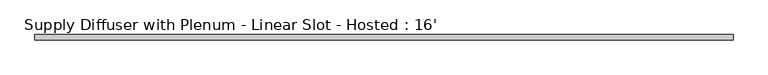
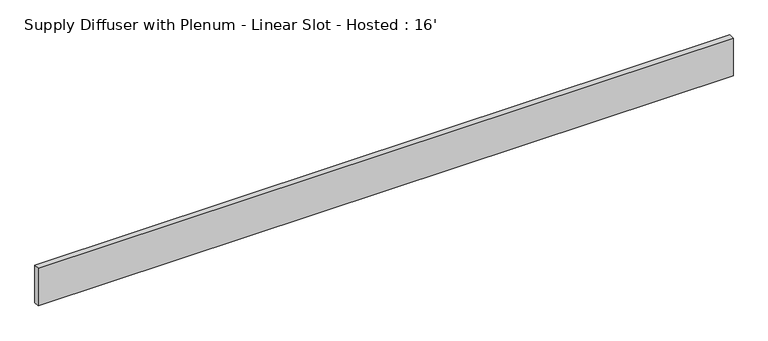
"""IFC4 building model written with IfcOpenShell, lengths in millimetres: air terminal geometry, Supply Diffuser with Plenum - Linear Slot - Hosted : 16'."""

import ifcopenshell
import ifcopenshell.guid

model = None  # the IFC model being written
_history = None  # IfcOwnerHistory: only IFC2X3 demands one
_inside = {}  # id of a spatial element -> (the spatial element, [elements in it])
_under = {}  # id of a project, library or spatial element -> (it, [spatial elements below it])
_declared = {}  # id of a project -> (the project, [libraries it declares])
_typed = {}  # id of a type object -> (the type object, [elements of that type])
_made_of = {}  # id of a material, layer set ... -> (it, [elements and type objects made of it])


def new_model(schema):
    """Start an empty IFC model of exactly this schema.

    Asked for "IFC4X3", IfcOpenShell would pick the latest addendum, in which some entities
    have other attributes; the version numbers below select the first issue.
    IFC2X3 requires an IfcOwnerHistory on every rooted entity: one is made here for all.
    """
    global model, _history
    if schema == "IFC4X3":
        model = ifcopenshell.file(schema_version=(4, 3, 0, 0))
    else:
        model = ifcopenshell.file(schema=schema)
    _inside.clear()
    _under.clear()
    _declared.clear()
    _typed.clear()
    _made_of.clear()
    _history = None
    if model.schema == "IFC2X3":
        org = make("IfcOrganization", Name="unknown")
        user = make(
            "IfcPersonAndOrganization",
            ThePerson=make("IfcPerson", FamilyName="unknown"),
            TheOrganization=org,
        )
        app = make(
            "IfcApplication",
            ApplicationDeveloper=org,
            Version="unknown",
            ApplicationFullName="unknown",
            ApplicationIdentifier="unknown",
        )
        _history = make(
            "IfcOwnerHistory",
            OwningUser=user,
            OwningApplication=app,
            ChangeAction="ADDED",
            CreationDate=0,
        )
    return model


def make(cls, **values):
    """One entity of the class cls with the attributes given. An attribute that is None is left unset."""
    return model.create_entity(
        cls, **{name: value for name, value in values.items() if value is not None}
    )


def rooted(cls, **values):
    """An entity with a GlobalId (a new one), such as an element, a storey or a relation."""
    return make(cls, GlobalId=ifcopenshell.guid.new(), OwnerHistory=_history, **values)


def si_unit(unit_type, name, prefix=None):
    """IfcSIUnit, for example si_unit("LENGTHUNIT", "METRE", prefix="MILLI")."""
    return make("IfcSIUnit", UnitType=unit_type, Prefix=prefix, Name=name)


def assignment(units):
    """IfcUnitAssignment: the units of a project."""
    return None if units is None else make("IfcUnitAssignment", Units=units)


def point(xyz):
    """IfcCartesianPoint."""
    return None if xyz is None else make("IfcCartesianPoint", Coordinates=xyz)


def direction(xyz):
    """IfcDirection."""
    return None if xyz is None else make("IfcDirection", DirectionRatios=xyz)


def frame(location, z_axis=None, x_axis=None):
    """IfcAxis2Placement3D, a coordinate frame: its origin and axes. An axis left out is left unset."""
    return make(
        "IfcAxis2Placement3D",
        Location=point(location),
        Axis=direction(z_axis),
        RefDirection=direction(x_axis),
    )


def origin():
    """The frame at (0, 0, 0) with its axes left unset."""
    return frame((0.0, 0.0, 0.0))


def place(relative_to, where):
    """IfcLocalPlacement: puts the frame where relative to a parent placement (None: the world)."""
    return make(
        "IfcLocalPlacement", PlacementRelTo=relative_to, RelativePlacement=where
    )


def context(
    kind, dimensions, precision=None, world=None, true_north=None, identifier=None
):
    """IfcGeometricRepresentationContext, for example the 3D "Model" context."""
    return make(
        "IfcGeometricRepresentationContext",
        ContextIdentifier=identifier,
        ContextType=kind,
        CoordinateSpaceDimension=dimensions,
        Precision=precision,
        WorldCoordinateSystem=world,
        TrueNorth=true_north,
    )


def project(units=None, contexts=None):
    """IfcProject with its units and contexts."""
    return rooted(
        "IfcProject",
        Name="project",
        RepresentationContexts=contexts,
        UnitsInContext=assignment(units),
    )


def spatial(cls, under=None, at=None, **own):
    """A site, building, storey or space (cls), placed at a placement, below another one or the project."""
    s = rooted(cls, ObjectPlacement=at, **own)
    if under is not None:
        _under.setdefault(under.id(), (under, []))[1].append(s)
    return s


def polyline(points):
    """IfcPolyline through the points."""
    return make("IfcPolyline", Points=[point(p) for p in points])


def outline(outer, holes=None, kind="AREA"):
    """IfcArbitraryClosedProfileDef: a profile drawn as a closed curve; with holes, ...WithVoids."""
    if holes is None:
        return make("IfcArbitraryClosedProfileDef", ProfileType=kind, OuterCurve=outer)
    return make(
        "IfcArbitraryProfileDefWithVoids",
        ProfileType=kind,
        OuterCurve=outer,
        InnerCurves=holes,
    )


def extrude(swept, where, along, depth):
    """IfcExtrudedAreaSolid: the profile swept, set in the frame where, extruded along a direction by depth."""
    return make(
        "IfcExtrudedAreaSolid",
        SweptArea=swept,
        Position=where,
        ExtrudedDirection=direction(along),
        Depth=depth,
    )


def shape(context_of_items, identifier, shape_type, items):
    """IfcShapeRepresentation: the items that make up one representation, for example the "Body"."""
    return make(
        "IfcShapeRepresentation",
        ContextOfItems=context_of_items,
        RepresentationIdentifier=identifier,
        RepresentationType=shape_type,
        Items=items,
    )


def source(mapping_origin, context_of_items, identifier, shape_type, items):
    """IfcRepresentationMap: a shape defined once, which mapped items show again and again."""
    return make(
        "IfcRepresentationMap",
        MappingOrigin=mapping_origin,
        MappedRepresentation=shape(context_of_items, identifier, shape_type, items),
    )


def transform(
    local_origin,
    x_axis=None,
    y_axis=None,
    z_axis=None,
    scale=None,
    scale2=None,
    scale3=None,
    uniform=True,
):
    """IfcCartesianTransformationOperator3D, or its non-uniform kind. x_axis, y_axis, z_axis: its Axis1, 2, 3."""
    if uniform:
        return make(
            "IfcCartesianTransformationOperator3D",
            Axis1=direction(x_axis),
            Axis2=direction(y_axis),
            LocalOrigin=point(local_origin),
            Scale=scale,
            Axis3=direction(z_axis),
        )
    return make(
        "IfcCartesianTransformationOperator3DnonUniform",
        Axis1=direction(x_axis),
        Axis2=direction(y_axis),
        LocalOrigin=point(local_origin),
        Scale=scale,
        Axis3=direction(z_axis),
        Scale2=scale2,
        Scale3=scale3,
    )


def mapped(mapping_source, mapping_target):
    """IfcMappedItem: shows the shape of a source again, moved by a transform."""
    return make(
        "IfcMappedItem", MappingSource=mapping_source, MappingTarget=mapping_target
    )


def made_of(thing, what):
    """Note that an element or type object is made of a material, layer set ...; save() writes the relation."""
    if what is not None:
        _made_of.setdefault(what.id(), (what, []))[1].append(thing)
    return thing


def element(
    cls,
    number,
    at=None,
    inside=None,
    cuts=None,
    type_object=None,
    material=None,
    context=None,
    identifier="Body",
    shape_type=None,
    held_by="IfcProductDefinitionShape",
    body=None,
    shapes=None,
    **own,
):
    """One element of the class cls, such as IfcWall. Its Tag is "e" and its number.

    at: its placement. inside: the storey or other place that contains it. cuts: it is an
    opening in that element (IfcRelVoidsElement). A single representation is given by context,
    identifier, shape_type and body (its items); several are given by shapes. held_by: the class
    of the entity that holds the representations. save() writes the other relations.
    """
    e = rooted(cls, Tag="e%d" % number, ObjectPlacement=at, **own)
    if body is not None:
        shapes = [shape(context, identifier, shape_type, body)]
    if shapes is not None:
        e.Representation = make(held_by, Representations=shapes)
    if inside is not None:
        _inside.setdefault(inside.id(), (inside, []))[1].append(e)
    if cuts is not None:
        rooted(
            "IfcRelVoidsElement", RelatingBuildingElement=cuts, RelatedOpeningElement=e
        )
    if type_object is not None:
        _typed.setdefault(type_object.id(), (type_object, []))[1].append(e)
    return made_of(e, material)


def aggregate(whole, parts):
    """IfcRelAggregates: a whole, such as a stair, and the parts it consists of."""
    return rooted("IfcRelAggregates", RelatingObject=whole, RelatedObjects=parts)


def save(model, path):
    """Write the relations noted so far, then the file.

    IfcRelAggregates (storeys below a building ...), IfcRelContainedInSpatialStructure (elements
    in a storey), IfcRelDefinesByType, IfcRelAssociatesMaterial and IfcRelDeclares: one each for
    every whole, place, type object, material and project.
    """
    for whole, parts in _under.values():
        aggregate(whole, parts)
    for where, things in _inside.values():
        rooted(
            "IfcRelContainedInSpatialStructure",
            RelatedElements=things,
            RelatingStructure=where,
        )
    for kind, things in _typed.values():
        rooted("IfcRelDefinesByType", RelatedObjects=things, RelatingType=kind)
    for what, things in _made_of.values():
        rooted("IfcRelAssociatesMaterial", RelatedObjects=things, RelatingMaterial=what)
    for by, libraries in _declared.values():
        rooted("IfcRelDeclares", RelatingContext=by, RelatedDefinitions=libraries)
    model.write(path)


def supply_diffuser_with_plenum_linear_slot_hosted_16_1b048e69(model_context):
    return source(origin(), model_context, "Body", "SweptSolid", [
        extrude(outline(polyline([(2438.4, 19.05), (2438.4, -19.05), (-2438.4, -19.05), (-2438.4, 19.05), (2438.4, 19.05)])), frame((0.0, 0.0, -279.4), z_axis=(0.0, 0.0, 1.0), x_axis=(1.0, 0.0, 0.0)), (0.0, 0.0, 1.0), 279.4),
    ])


if __name__ == "__main__":
    model = new_model("IFC4")
    model_context = context("Model", 3, world=origin())
    ifc_project = project(units=[si_unit("LENGTHUNIT", "METRE", prefix="MILLI")], contexts=[model_context])
    site = spatial("IfcSite", under=ifc_project)
    building = spatial("IfcBuilding", under=site)
    placement = place(None, origin())
    supply_diffuser_with_plenum_linear_slot_hosted_16_shape = supply_diffuser_with_plenum_linear_slot_hosted_16_1b048e69(model_context)
    element("IfcAirTerminal", 1, ObjectType="Supply Diffuser with Plenum - Linear Slot - Hosted : 16'", at=placement, inside=building, context=model_context, shape_type="MappedRepresentation", body=[
        mapped(supply_diffuser_with_plenum_linear_slot_hosted_16_shape, transform((0.0, 0.0, 0.0), x_axis=(1.0, 0.0, 0.0), y_axis=(0.0, 1.0, 0.0), z_axis=(0.0, 0.0, 1.0))),
    ])
    save(model, "model.ifc")
